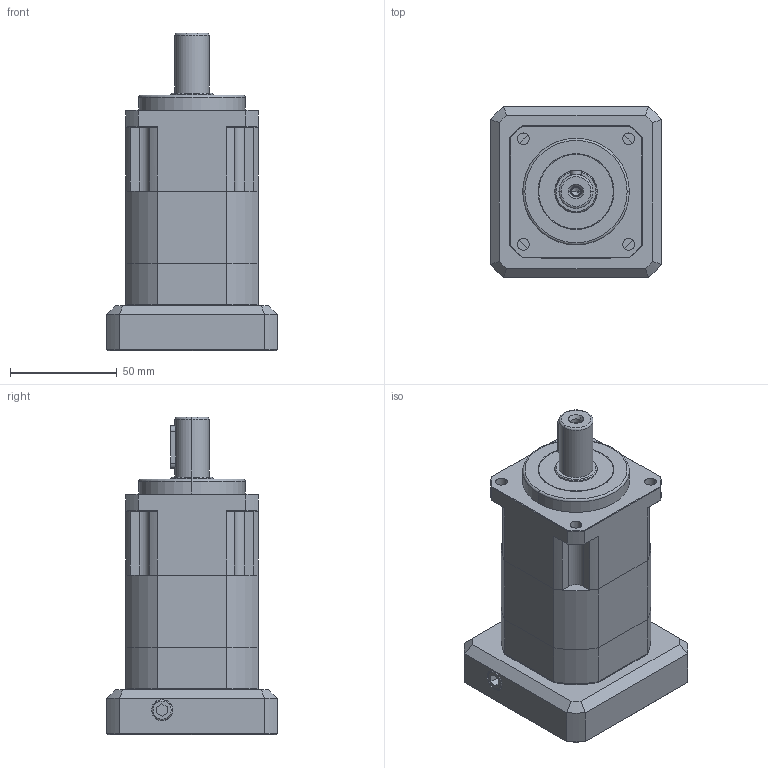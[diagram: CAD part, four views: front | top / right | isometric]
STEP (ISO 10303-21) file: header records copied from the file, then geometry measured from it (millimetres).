
FILE_DESCRIPTION (( 'STEP AP203' ), '1' );
FILE_NAME ('SB62A-2-70M5.STEP', '2011-07-11T09:00:37', ( '1' ), ( '' ), 'SwSTEP 2.0', 'SolidWorks 2011', '' );
FILE_SCHEMA (( 'CONFIG_CONTROL_DESIGN' ));
Length unit declared in the file: millimetre
Products named in the file (1): SB62A-2-70M5
Bounding box: 80 x 80 x 148.8 mm (x, y, z)
Volume: 314014.9 mm3; surface area: 90822.9 mm2
Topology: 17 solids, 17 shells, 598 faces, 1442 edges, 890 vertices
Faces by surface type: plane 265, cylinder 186, cone 113, torus 23, bspline 11
Entity records: 18452 total; most frequent: CARTESIAN_POINT 4316, DIRECTION 3027, ORIENTED_EDGE 2828, EDGE_CURVE 1414, AXIS2_PLACEMENT_3D 1139, VERTEX_POINT 890, LINE 749, VECTOR 749
